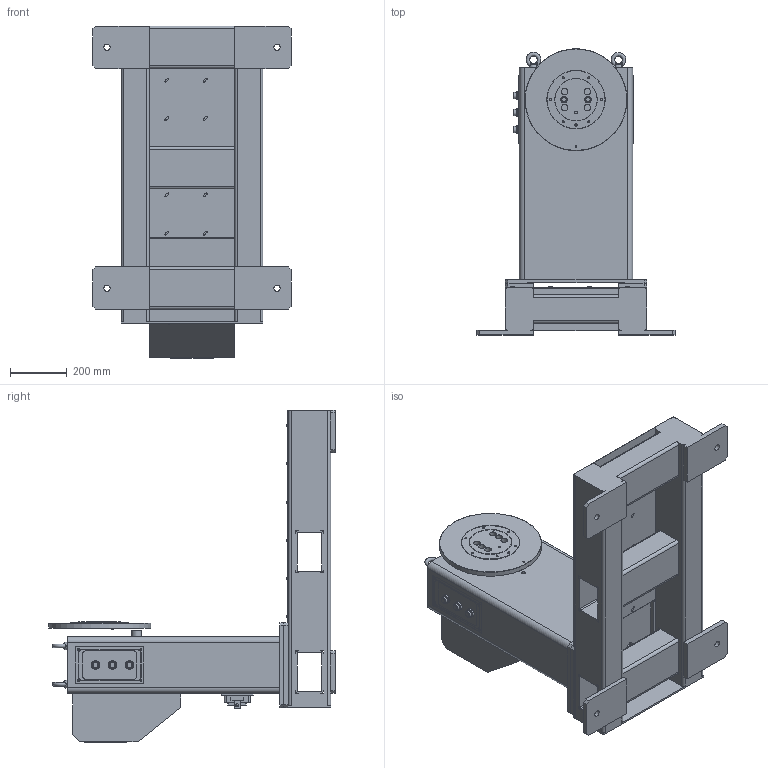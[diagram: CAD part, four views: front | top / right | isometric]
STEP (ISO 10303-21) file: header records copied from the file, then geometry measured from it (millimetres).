
FILE_DESCRIPTION (( 'STEP AP203' ), '1' );
FILE_NAME ('AUT-SWP-Z-200.STEP', '2020-07-06T08:53:47', ( 'Microsoft' ), ( 'Microsoft' ), 'SwSTEP 2.0', 'SolidWorks 2016', '' );
FILE_SCHEMA (( 'CONFIG_CONTROL_DESIGN' ));
Length unit declared in the file: millimetre
Products named in the file (1): AUT-SWP-Z-200
Bounding box: 700 x 1011 x 1171.43 mm (x, y, z)
Surface area: 4451958.8 mm2 (no closed solid volume)
Topology: 0 solids, 24 shells, 441 faces, 1451 edges, 1018 vertices
Faces by surface type: plane 225, cylinder 154, bspline 46, torus 8, cone 8
Full cylindrical faces by diameter (mm): 2.175 x4, 3.2 x1, 3.5 x16, 4.2 x13, 4.4 x4, 5 x1, 6 x2, 6.5 x10, 6.6 x4, 6.8 x6, 7 x7, 8 x1, 9 x1, 11 x1, 13 x1, 13.5 x4, 20 x1, 22 x7, 23 x6, 25 x2, 30 x3, 35 x1, 150 x1, 206 x1, 360 x1
Entity records: 17434 total; most frequent: CARTESIAN_POINT 5307, DIRECTION 2400, ORIENTED_EDGE 2106, EDGE_CURVE 1286, VERTEX_POINT 984, LINE 806, VECTOR 806, AXIS2_PLACEMENT_3D 797
